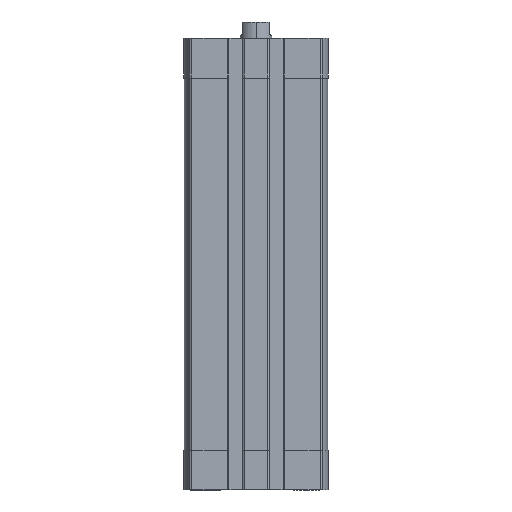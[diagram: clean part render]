
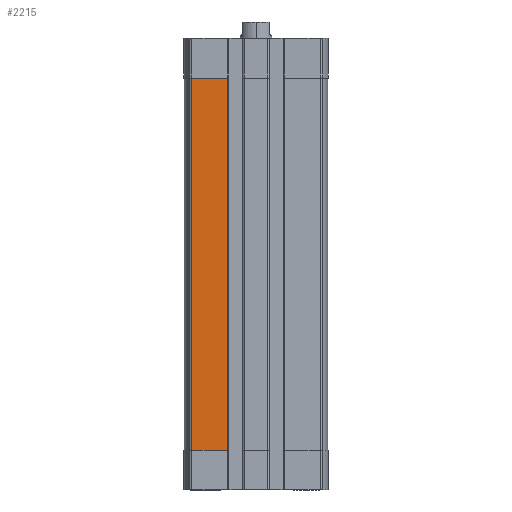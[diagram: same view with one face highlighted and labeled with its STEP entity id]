
A CAD part, left-side view. The second image highlights one B-rep face of the part: STEP entity #2215.
In plain terms, the highlighted planar face has unit normal (-1, 0, 0).
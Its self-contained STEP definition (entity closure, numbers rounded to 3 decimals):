
#531 = EDGE_CURVE ( 'NONE', #9780, #9210, #15108, .T. ) ;
#703 = EDGE_CURVE ( 'NONE', #10742, #11622, #14253, .T. ) ;
#1275 = VECTOR ( 'NONE', #4510, 1000. ) ;
#1507 = ORIENTED_EDGE ( 'NONE', *, *, #703, .T. ) ;
#2215 = ADVANCED_FACE ( 'NONE', ( #13832 ), #11717, .T. ) ;
#2325 = LINE ( 'NONE', #11283, #14373 ) ;
#2642 = EDGE_CURVE ( 'NONE', #9210, #10742, #2325, .T. ) ;
#3035 = ORIENTED_EDGE ( 'NONE', *, *, #2642, .T. ) ;
#4510 = DIRECTION ( 'NONE',  ( 0., 1., 0. ) ) ;
#5248 = EDGE_CURVE ( 'NONE', #11622, #9780, #14138, .T. ) ;
#5744 = CARTESIAN_POINT ( 'NONE',  ( -27., 0., -15. ) ) ;
#8001 = VECTOR ( 'NONE', #12755, 1000. ) ;
#8093 = EDGE_LOOP ( 'NONE', ( #3035, #1507, #11984, #8478 ) ) ;
#8478 = ORIENTED_EDGE ( 'NONE', *, *, #531, .T. ) ;
#9056 = CARTESIAN_POINT ( 'NONE',  ( -27., 24.093, -15. ) ) ;
#9210 = VERTEX_POINT ( 'NONE', #9536 ) ;
#9536 = CARTESIAN_POINT ( 'NONE',  ( -27., 24.093, -155. ) ) ;
#9780 = VERTEX_POINT ( 'NONE', #9056 ) ;
#10362 = CARTESIAN_POINT ( 'NONE',  ( -27., 10.7, -155. ) ) ;
#10532 = CARTESIAN_POINT ( 'NONE',  ( -27., 24.093, -155. ) ) ;
#10651 = CARTESIAN_POINT ( 'NONE',  ( -27., 10.7, -15. ) ) ;
#10665 = CARTESIAN_POINT ( 'NONE',  ( -27., 24.093, -155. ) ) ;
#10681 = DIRECTION ( 'NONE',  ( 0., 0., -1. ) ) ;
#10742 = VERTEX_POINT ( 'NONE', #10362 ) ;
#11283 = CARTESIAN_POINT ( 'NONE',  ( -27., 24.093, -155. ) ) ;
#11379 = DIRECTION ( 'NONE',  ( 0., -1., 0. ) ) ;
#11503 = AXIS2_PLACEMENT_3D ( 'NONE', #10665, #13017, #13108 ) ;
#11622 = VERTEX_POINT ( 'NONE', #10651 ) ;
#11717 = PLANE ( 'NONE',  #11503 ) ;
#11984 = ORIENTED_EDGE ( 'NONE', *, *, #5248, .T. ) ;
#12693 = CARTESIAN_POINT ( 'NONE',  ( -27., 10.7, -155. ) ) ;
#12755 = DIRECTION ( 'NONE',  ( 0., 0., 1. ) ) ;
#13017 = DIRECTION ( 'NONE',  ( -1., 0., 0. ) ) ;
#13108 = DIRECTION ( 'NONE',  ( 0., 0., 1. ) ) ;
#13832 = FACE_OUTER_BOUND ( 'NONE', #8093, .T. ) ;
#14138 = LINE ( 'NONE', #5744, #1275 ) ;
#14253 = LINE ( 'NONE', #12693, #8001 ) ;
#14373 = VECTOR ( 'NONE', #11379, 1000. ) ;
#14764 = VECTOR ( 'NONE', #10681, 1000. ) ;
#15108 = LINE ( 'NONE', #10532, #14764 ) ;
